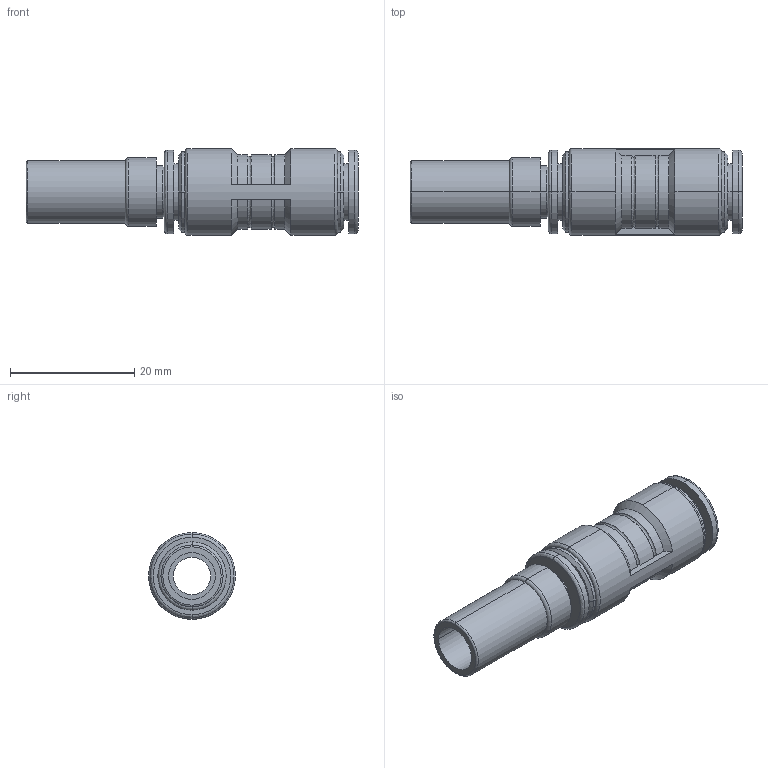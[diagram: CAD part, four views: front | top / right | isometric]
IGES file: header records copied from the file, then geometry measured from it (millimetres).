
Global section: file name: No Iges File Name specified; native system: AutoDesk Inventor R11.0; preprocessor: AutoDesk Inventor Iges Exporter R11.0; author: No Author specified; organization: No Organization specified; date: 20120321.163226; units: millimetre
Bounding box: 53.5 x 14 x 14 mm (x, y, z)
Volume: 3903.3 mm3; surface area: 3849.5 mm2
Topology: 1 solids, 1 shells, 78 faces, 175 edges, 111 vertices
Faces by surface type: bspline 30, cylinder 20, plane 12, torus 8, cone 4, revolution 4
